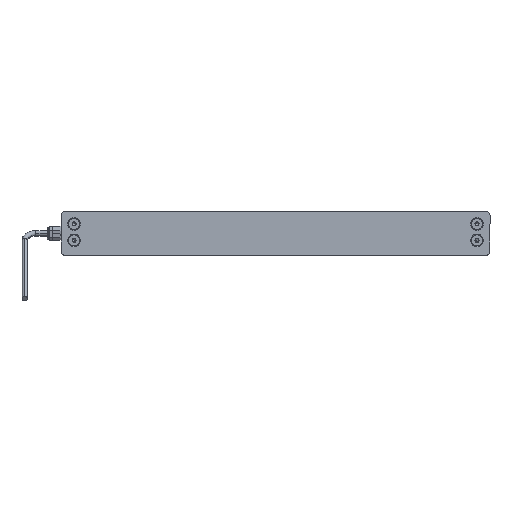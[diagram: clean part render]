
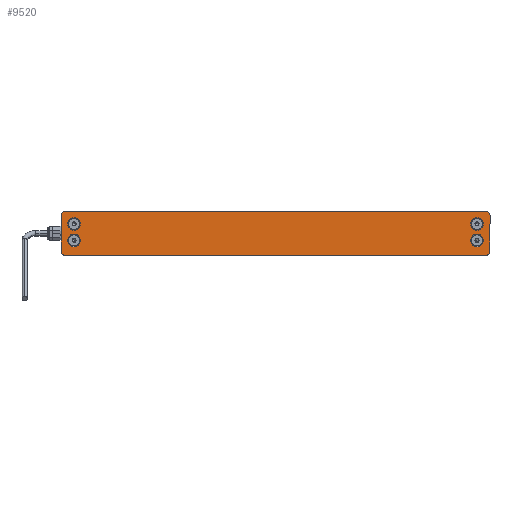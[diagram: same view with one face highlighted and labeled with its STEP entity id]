
A CAD part, left-side view. The second image highlights one B-rep face of the part: STEP entity #9520.
In plain terms, the highlighted planar face has unit normal (-1, 0, 0) as drawn and (0, 0, -1) by its records, which use the part's own axes.
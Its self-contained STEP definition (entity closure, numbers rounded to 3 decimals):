
#133 = VERTEX_POINT ( 'NONE', #7232 ) ;
#160 = EDGE_CURVE ( 'NONE', #8437, #15825, #12745, .T. ) ;
#254 = CARTESIAN_POINT ( 'NONE',  ( -193., -16., 0. ) ) ;
#275 = EDGE_LOOP ( 'NONE', ( #11150, #1426 ) ) ;
#280 = VERTEX_POINT ( 'NONE', #15380 ) ;
#1004 = EDGE_CURVE ( 'NONE', #4062, #2341, #3386, .T. ) ;
#1201 = FACE_BOUND ( 'NONE', #7209, .T. ) ;
#1294 = AXIS2_PLACEMENT_3D ( 'NONE', #12428, #10048, #12767 ) ;
#1426 = ORIENTED_EDGE ( 'NONE', *, *, #8673, .F. ) ;
#1681 = DIRECTION ( 'NONE',  ( -1., 0., 0. ) ) ;
#1704 = DIRECTION ( 'NONE',  ( -1., 0., 0. ) ) ;
#1852 = DIRECTION ( 'NONE',  ( 0., 0., 1. ) ) ;
#1909 = EDGE_CURVE ( 'NONE', #11080, #2138, #3298, .T. ) ;
#1931 = CARTESIAN_POINT ( 'NONE',  ( -181.3, 8.5, 0. ) ) ;
#2120 = CIRCLE ( 'NONE', #9405, 5.6 ) ;
#2138 = VERTEX_POINT ( 'NONE', #2849 ) ;
#2177 = EDGE_LOOP ( 'NONE', ( #9404, #10140 ) ) ;
#2232 = EDGE_CURVE ( 'NONE', #12220, #6251, #2120, .T. ) ;
#2252 = CARTESIAN_POINT ( 'NONE',  ( 189., 16., 0. ) ) ;
#2341 = VERTEX_POINT ( 'NONE', #16319 ) ;
#2416 = CARTESIAN_POINT ( 'NONE',  ( -193., 16., 0. ) ) ;
#2547 = ORIENTED_EDGE ( 'NONE', *, *, #5664, .F. ) ;
#2610 = VERTEX_POINT ( 'NONE', #7066 ) ;
#2633 = CARTESIAN_POINT ( 'NONE',  ( -186.9, -6.3, 0. ) ) ;
#2635 = CARTESIAN_POINT ( 'NONE',  ( 181.3, -6.3, 0. ) ) ;
#2821 = ORIENTED_EDGE ( 'NONE', *, *, #9718, .F. ) ;
#2849 = CARTESIAN_POINT ( 'NONE',  ( 193., 16., 0. ) ) ;
#3136 = CIRCLE ( 'NONE', #3698, 4. ) ;
#3298 = LINE ( 'NONE', #7154, #14601 ) ;
#3386 = CIRCLE ( 'NONE', #6945, 5.6 ) ;
#3453 = DIRECTION ( 'NONE',  ( -1., 0., 0. ) ) ;
#3658 = VERTEX_POINT ( 'NONE', #4571 ) ;
#3698 = AXIS2_PLACEMENT_3D ( 'NONE', #2252, #1852, #4384 ) ;
#3812 = DIRECTION ( 'NONE',  ( -1., 0., 0. ) ) ;
#3858 = ORIENTED_EDGE ( 'NONE', *, *, #11204, .F. ) ;
#3902 = FACE_BOUND ( 'NONE', #6989, .T. ) ;
#4062 = VERTEX_POINT ( 'NONE', #15788 ) ;
#4127 = DIRECTION ( 'NONE',  ( 0., 0., -1. ) ) ;
#4301 = DIRECTION ( 'NONE',  ( 0., 0., -1. ) ) ;
#4384 = DIRECTION ( 'NONE',  ( -1., 0., 0. ) ) ;
#4571 = CARTESIAN_POINT ( 'NONE',  ( 186.9, 8.5, 0. ) ) ;
#4578 = DIRECTION ( 'NONE',  ( 0., 1., 0. ) ) ;
#4626 = DIRECTION ( 'NONE',  ( -1., 0., 0. ) ) ;
#4642 = CARTESIAN_POINT ( 'NONE',  ( 189., -16., 0. ) ) ;
#4658 = DIRECTION ( 'NONE',  ( 1., 0., 0. ) ) ;
#4819 = CARTESIAN_POINT ( 'NONE',  ( -189., -16., 0. ) ) ;
#4906 = DIRECTION ( 'NONE',  ( 1., 0., 0. ) ) ;
#5027 = FACE_OUTER_BOUND ( 'NONE', #8008, .T. ) ;
#5182 = AXIS2_PLACEMENT_3D ( 'NONE', #2635, #13350, #1704 ) ;
#5571 = CARTESIAN_POINT ( 'NONE',  ( 175.7, 8.5, 0. ) ) ;
#5585 = CARTESIAN_POINT ( 'NONE',  ( -181.3, -6.3, 0. ) ) ;
#5586 = EDGE_CURVE ( 'NONE', #6251, #12220, #15116, .T. ) ;
#5664 = EDGE_CURVE ( 'NONE', #2138, #7513, #3136, .T. ) ;
#5711 = VERTEX_POINT ( 'NONE', #6882 ) ;
#5714 = DIRECTION ( 'NONE',  ( 0., 0., -1. ) ) ;
#5735 = ORIENTED_EDGE ( 'NONE', *, *, #7027, .F. ) ;
#5794 = AXIS2_PLACEMENT_3D ( 'NONE', #15542, #14440, #10516 ) ;
#6034 = LINE ( 'NONE', #8349, #10733 ) ;
#6041 = DIRECTION ( 'NONE',  ( 0., 0., 1. ) ) ;
#6251 = VERTEX_POINT ( 'NONE', #14469 ) ;
#6882 = CARTESIAN_POINT ( 'NONE',  ( -189., -20., 0. ) ) ;
#6924 = CARTESIAN_POINT ( 'NONE',  ( 181.3, 8.5, 0. ) ) ;
#6945 = AXIS2_PLACEMENT_3D ( 'NONE', #8581, #7319, #12481 ) ;
#6989 = EDGE_LOOP ( 'NONE', ( #14409, #3858 ) ) ;
#7027 = EDGE_CURVE ( 'NONE', #280, #11080, #11601, .T. ) ;
#7066 = CARTESIAN_POINT ( 'NONE',  ( -189., 20., 0. ) ) ;
#7154 = CARTESIAN_POINT ( 'NONE',  ( 193., -16., 0. ) ) ;
#7209 = EDGE_LOOP ( 'NONE', ( #12799, #13018 ) ) ;
#7232 = CARTESIAN_POINT ( 'NONE',  ( 186.9, -6.3, 0. ) ) ;
#7319 = DIRECTION ( 'NONE',  ( 0., 0., -1. ) ) ;
#7338 = EDGE_CURVE ( 'NONE', #7513, #2610, #11093, .T. ) ;
#7361 = ORIENTED_EDGE ( 'NONE', *, *, #7680, .F. ) ;
#7513 = VERTEX_POINT ( 'NONE', #9613 ) ;
#7564 = VECTOR ( 'NONE', #4626, 1000. ) ;
#7609 = PLANE ( 'NONE',  #11550 ) ;
#7680 = EDGE_CURVE ( 'NONE', #2610, #8437, #7846, .T. ) ;
#7688 = FACE_BOUND ( 'NONE', #2177, .T. ) ;
#7716 = CIRCLE ( 'NONE', #5794, 5.6 ) ;
#7846 = CIRCLE ( 'NONE', #9188, 4. ) ;
#7879 = EDGE_CURVE ( 'NONE', #15825, #5711, #13530, .T. ) ;
#8008 = EDGE_LOOP ( 'NONE', ( #2547, #14002, #5735, #2821, #11334, #12825, #7361, #8524 ) ) ;
#8247 = DIRECTION ( 'NONE',  ( 0., 0., -1. ) ) ;
#8316 = EDGE_CURVE ( 'NONE', #2341, #4062, #11641, .T. ) ;
#8349 = CARTESIAN_POINT ( 'NONE',  ( -189., -20., 0. ) ) ;
#8437 = VERTEX_POINT ( 'NONE', #2416 ) ;
#8524 = ORIENTED_EDGE ( 'NONE', *, *, #7338, .F. ) ;
#8581 = CARTESIAN_POINT ( 'NONE',  ( -181.3, 8.5, 0. ) ) ;
#8673 = EDGE_CURVE ( 'NONE', #133, #11435, #7716, .T. ) ;
#8922 = AXIS2_PLACEMENT_3D ( 'NONE', #4819, #11367, #3453 ) ;
#9188 = AXIS2_PLACEMENT_3D ( 'NONE', #11546, #6041, #12755 ) ;
#9404 = ORIENTED_EDGE ( 'NONE', *, *, #2232, .F. ) ;
#9405 = AXIS2_PLACEMENT_3D ( 'NONE', #5585, #4301, #14699 ) ;
#9520 = ADVANCED_FACE ( 'NONE', ( #3902, #10049, #1201, #7688, #5027 ), #7609, .T. ) ;
#9613 = CARTESIAN_POINT ( 'NONE',  ( 189., 20., 0. ) ) ;
#9718 = EDGE_CURVE ( 'NONE', #5711, #280, #6034, .T. ) ;
#9737 = AXIS2_PLACEMENT_3D ( 'NONE', #1931, #8247, #1681 ) ;
#10048 = DIRECTION ( 'NONE',  ( 0., 0., -1. ) ) ;
#10049 = FACE_BOUND ( 'NONE', #275, .T. ) ;
#10140 = ORIENTED_EDGE ( 'NONE', *, *, #5586, .F. ) ;
#10215 = DIRECTION ( 'NONE',  ( 0., 0., -1. ) ) ;
#10367 = CARTESIAN_POINT ( 'NONE',  ( -181.3, -6.3, 0. ) ) ;
#10516 = DIRECTION ( 'NONE',  ( -1., 0., 0. ) ) ;
#10733 = VECTOR ( 'NONE', #4658, 1000. ) ;
#10976 = DIRECTION ( 'NONE',  ( -1., 0., 0. ) ) ;
#11080 = VERTEX_POINT ( 'NONE', #14403 ) ;
#11093 = LINE ( 'NONE', #14939, #7564 ) ;
#11150 = ORIENTED_EDGE ( 'NONE', *, *, #14596, .F. ) ;
#11204 = EDGE_CURVE ( 'NONE', #3658, #15403, #14878, .T. ) ;
#11334 = ORIENTED_EDGE ( 'NONE', *, *, #7879, .F. ) ;
#11360 = EDGE_CURVE ( 'NONE', #15403, #3658, #16769, .T. ) ;
#11367 = DIRECTION ( 'NONE',  ( 0., 0., 1. ) ) ;
#11435 = VERTEX_POINT ( 'NONE', #12926 ) ;
#11546 = CARTESIAN_POINT ( 'NONE',  ( -189., 16., 0. ) ) ;
#11550 = AXIS2_PLACEMENT_3D ( 'NONE', #16756, #10215, #12768 ) ;
#11601 = CIRCLE ( 'NONE', #14867, 4. ) ;
#11641 = CIRCLE ( 'NONE', #9737, 5.6 ) ;
#11880 = VECTOR ( 'NONE', #15131, 1000. ) ;
#12220 = VERTEX_POINT ( 'NONE', #2633 ) ;
#12428 = CARTESIAN_POINT ( 'NONE',  ( 181.3, 8.5, 0. ) ) ;
#12481 = DIRECTION ( 'NONE',  ( -1., 0., 0. ) ) ;
#12500 = CIRCLE ( 'NONE', #5182, 5.6 ) ;
#12745 = LINE ( 'NONE', #15048, #11880 ) ;
#12755 = DIRECTION ( 'NONE',  ( -1., 0., 0. ) ) ;
#12767 = DIRECTION ( 'NONE',  ( -1., 0., 0. ) ) ;
#12768 = DIRECTION ( 'NONE',  ( -1., 0., 0. ) ) ;
#12799 = ORIENTED_EDGE ( 'NONE', *, *, #1004, .F. ) ;
#12825 = ORIENTED_EDGE ( 'NONE', *, *, #160, .F. ) ;
#12926 = CARTESIAN_POINT ( 'NONE',  ( 175.7, -6.3, 0. ) ) ;
#13018 = ORIENTED_EDGE ( 'NONE', *, *, #8316, .F. ) ;
#13350 = DIRECTION ( 'NONE',  ( 0., 0., -1. ) ) ;
#13501 = AXIS2_PLACEMENT_3D ( 'NONE', #6924, #5714, #10976 ) ;
#13530 = CIRCLE ( 'NONE', #8922, 4. ) ;
#13748 = DIRECTION ( 'NONE',  ( 0., 0., 1. ) ) ;
#14002 = ORIENTED_EDGE ( 'NONE', *, *, #1909, .F. ) ;
#14403 = CARTESIAN_POINT ( 'NONE',  ( 193., -16., 0. ) ) ;
#14409 = ORIENTED_EDGE ( 'NONE', *, *, #11360, .F. ) ;
#14440 = DIRECTION ( 'NONE',  ( 0., 0., -1. ) ) ;
#14469 = CARTESIAN_POINT ( 'NONE',  ( -175.7, -6.3, 0. ) ) ;
#14596 = EDGE_CURVE ( 'NONE', #11435, #133, #12500, .T. ) ;
#14601 = VECTOR ( 'NONE', #4578, 1000. ) ;
#14699 = DIRECTION ( 'NONE',  ( -1., 0., 0. ) ) ;
#14867 = AXIS2_PLACEMENT_3D ( 'NONE', #4642, #13748, #4906 ) ;
#14878 = CIRCLE ( 'NONE', #13501, 5.6 ) ;
#14939 = CARTESIAN_POINT ( 'NONE',  ( -189., 20., 0. ) ) ;
#15048 = CARTESIAN_POINT ( 'NONE',  ( -193., -16., 0. ) ) ;
#15116 = CIRCLE ( 'NONE', #15662, 5.6 ) ;
#15131 = DIRECTION ( 'NONE',  ( 0., -1., 0. ) ) ;
#15380 = CARTESIAN_POINT ( 'NONE',  ( 189., -20., 0. ) ) ;
#15403 = VERTEX_POINT ( 'NONE', #5571 ) ;
#15542 = CARTESIAN_POINT ( 'NONE',  ( 181.3, -6.3, 0. ) ) ;
#15662 = AXIS2_PLACEMENT_3D ( 'NONE', #10367, #4127, #3812 ) ;
#15788 = CARTESIAN_POINT ( 'NONE',  ( -186.9, 8.5, 0. ) ) ;
#15825 = VERTEX_POINT ( 'NONE', #254 ) ;
#16319 = CARTESIAN_POINT ( 'NONE',  ( -175.7, 8.5, 0. ) ) ;
#16756 = CARTESIAN_POINT ( 'NONE',  ( 189., 16., 0. ) ) ;
#16769 = CIRCLE ( 'NONE', #1294, 5.6 ) ;
